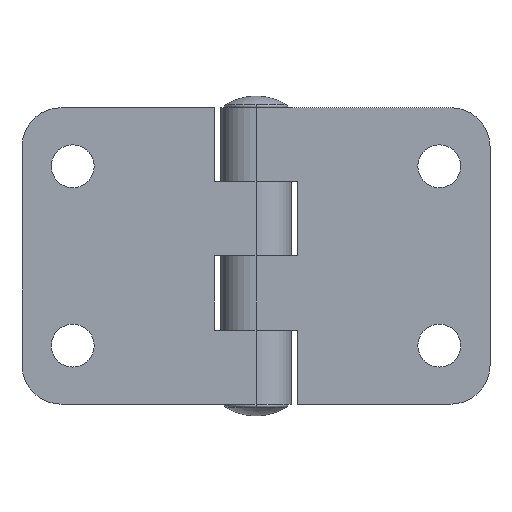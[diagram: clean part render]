
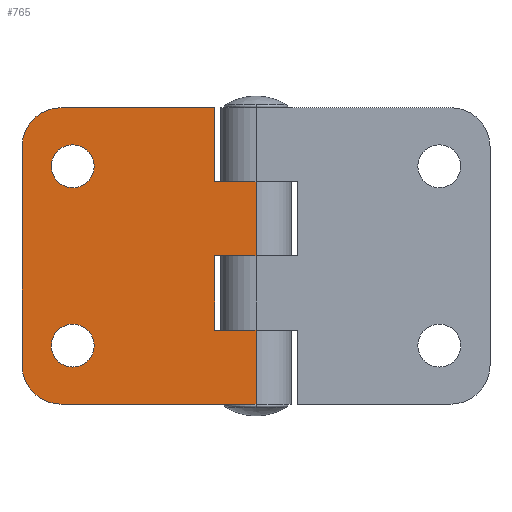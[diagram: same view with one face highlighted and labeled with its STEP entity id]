
A CAD part, top view. The second image highlights one B-rep face of the part: STEP entity #765.
In plain terms, the highlighted planar face has unit normal (0, 0, 1) as drawn and (0, -1, 0) by its records, which use the part's own axes.
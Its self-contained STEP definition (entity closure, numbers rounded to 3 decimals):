
#4 = CARTESIAN_POINT ( 'NONE',  ( 0., -4.5, 38. ) ) ;
#13 = LINE ( 'NONE', #195, #682 ) ;
#32 = AXIS2_PLACEMENT_3D ( 'NONE', #766, #454, #488 ) ;
#35 = EDGE_LOOP ( 'NONE', ( #798, #1360, #1066, #411, #68, #1325, #371, #38, #1292, #1006, #673, #1255 ) ) ;
#38 = ORIENTED_EDGE ( 'NONE', *, *, #256, .F. ) ;
#58 = CARTESIAN_POINT ( 'NONE',  ( 0., -4.5, 0. ) ) ;
#68 = ORIENTED_EDGE ( 'NONE', *, *, #690, .F. ) ;
#91 = VERTEX_POINT ( 'NONE', #587 ) ;
#113 = LINE ( 'NONE', #4, #498 ) ;
#115 = CARTESIAN_POINT ( 'NONE',  ( -25., -4.5, 33. ) ) ;
#117 = EDGE_CURVE ( 'NONE', #797, #202, #952, .T. ) ;
#124 = LINE ( 'NONE', #539, #1120 ) ;
#140 = VERTEX_POINT ( 'NONE', #662 ) ;
#142 = CIRCLE ( 'NONE', #660, 2.75 ) ;
#144 = CIRCLE ( 'NONE', #990, 2.75 ) ;
#194 = CIRCLE ( 'NONE', #998, 2.75 ) ;
#195 = CARTESIAN_POINT ( 'NONE',  ( -5.3, -4.5, 38. ) ) ;
#202 = VERTEX_POINT ( 'NONE', #790 ) ;
#209 = DIRECTION ( 'NONE',  ( 0., 0., -1. ) ) ;
#221 = VERTEX_POINT ( 'NONE', #792 ) ;
#227 = VERTEX_POINT ( 'NONE', #902 ) ;
#256 = EDGE_CURVE ( 'NONE', #221, #1083, #113, .T. ) ;
#261 = VECTOR ( 'NONE', #318, 1000. ) ;
#285 = CARTESIAN_POINT ( 'NONE',  ( -25., -4.5, 0. ) ) ;
#301 = LINE ( 'NONE', #886, #985 ) ;
#312 = VERTEX_POINT ( 'NONE', #1329 ) ;
#315 = CARTESIAN_POINT ( 'NONE',  ( -23.5, -4.5, 30.5 ) ) ;
#318 = DIRECTION ( 'NONE',  ( 1., 0., 0. ) ) ;
#341 = EDGE_CURVE ( 'NONE', #202, #1015, #1035, .T. ) ;
#343 = CARTESIAN_POINT ( 'NONE',  ( -30., -4.5, 5. ) ) ;
#349 = DIRECTION ( 'NONE',  ( 0., -1., 0. ) ) ;
#371 = ORIENTED_EDGE ( 'NONE', *, *, #525, .F. ) ;
#372 = LINE ( 'NONE', #1434, #1293 ) ;
#374 = EDGE_CURVE ( 'NONE', #91, #387, #372, .T. ) ;
#387 = VERTEX_POINT ( 'NONE', #489 ) ;
#398 = AXIS2_PLACEMENT_3D ( 'NONE', #1012, #855, #1079 ) ;
#411 = ORIENTED_EDGE ( 'NONE', *, *, #1525, .F. ) ;
#415 = AXIS2_PLACEMENT_3D ( 'NONE', #1134, #1139, #1061 ) ;
#420 = DIRECTION ( 'NONE',  ( 1., 0., 0. ) ) ;
#429 = VERTEX_POINT ( 'NONE', #343 ) ;
#438 = LINE ( 'NONE', #1224, #1352 ) ;
#439 = VECTOR ( 'NONE', #883, 1000. ) ;
#454 = DIRECTION ( 'NONE',  ( 0., -1., 0. ) ) ;
#463 = EDGE_CURVE ( 'NONE', #572, #1233, #194, .T. ) ;
#476 = CARTESIAN_POINT ( 'NONE',  ( -30., -4.5, 33. ) ) ;
#485 = FACE_BOUND ( 'NONE', #567, .T. ) ;
#488 = DIRECTION ( 'NONE',  ( 1., 0., 0. ) ) ;
#489 = CARTESIAN_POINT ( 'NONE',  ( -5.3, -4.5, 9.5 ) ) ;
#498 = VECTOR ( 'NONE', #771, 1000. ) ;
#525 = EDGE_CURVE ( 'NONE', #1083, #91, #124, .T. ) ;
#532 = FACE_OUTER_BOUND ( 'NONE', #35, .T. ) ;
#539 = CARTESIAN_POINT ( 'NONE',  ( -5.3, -4.5, 19. ) ) ;
#559 = ORIENTED_EDGE ( 'NONE', *, *, #463, .F. ) ;
#567 = EDGE_LOOP ( 'NONE', ( #634, #912 ) ) ;
#572 = VERTEX_POINT ( 'NONE', #1242 ) ;
#581 = CARTESIAN_POINT ( 'NONE',  ( 0., -4.5, 38. ) ) ;
#587 = CARTESIAN_POINT ( 'NONE',  ( -5.3, -4.5, 19. ) ) ;
#622 = CARTESIAN_POINT ( 'NONE',  ( 0., -4.5, 19. ) ) ;
#629 = DIRECTION ( 'NONE',  ( -1., 0., 0. ) ) ;
#633 = EDGE_CURVE ( 'NONE', #797, #312, #13, .T. ) ;
#634 = ORIENTED_EDGE ( 'NONE', *, *, #1240, .F. ) ;
#658 = VECTOR ( 'NONE', #629, 1000. ) ;
#660 = AXIS2_PLACEMENT_3D ( 'NONE', #315, #349, #420 ) ;
#662 = CARTESIAN_POINT ( 'NONE',  ( 0., -4.5, 9.5 ) ) ;
#672 = CIRCLE ( 'NONE', #415, 2.75 ) ;
#673 = ORIENTED_EDGE ( 'NONE', *, *, #117, .T. ) ;
#682 = VECTOR ( 'NONE', #209, 1000. ) ;
#690 = EDGE_CURVE ( 'NONE', #387, #140, #1231, .T. ) ;
#700 = VERTEX_POINT ( 'NONE', #285 ) ;
#724 = DIRECTION ( 'NONE',  ( 1., 0., 0. ) ) ;
#739 = CARTESIAN_POINT ( 'NONE',  ( -26.25, -4.5, 7.5 ) ) ;
#749 = VECTOR ( 'NONE', #1282, 1000. ) ;
#751 = DIRECTION ( 'NONE',  ( 0., 0., -1. ) ) ;
#765 = ADVANCED_FACE ( 'NONE', ( #532, #485, #1425 ), #1072, .T. ) ;
#766 = CARTESIAN_POINT ( 'NONE',  ( -25., -4.5, 5. ) ) ;
#771 = DIRECTION ( 'NONE',  ( 0., 0., -1. ) ) ;
#786 = EDGE_CURVE ( 'NONE', #1163, #700, #438, .T. ) ;
#788 = EDGE_CURVE ( 'NONE', #1015, #429, #1056, .T. ) ;
#790 = CARTESIAN_POINT ( 'NONE',  ( -25., -4.5, 38. ) ) ;
#792 = CARTESIAN_POINT ( 'NONE',  ( 0., -4.5, 28.5 ) ) ;
#795 = LINE ( 'NONE', #1426, #439 ) ;
#797 = VERTEX_POINT ( 'NONE', #1105 ) ;
#798 = ORIENTED_EDGE ( 'NONE', *, *, #788, .T. ) ;
#824 = EDGE_CURVE ( 'NONE', #1233, #572, #142, .T. ) ;
#851 = CARTESIAN_POINT ( 'NONE',  ( -23.5, -4.5, 30.5 ) ) ;
#855 = DIRECTION ( 'NONE',  ( 0., -1., 0. ) ) ;
#871 = VERTEX_POINT ( 'NONE', #739 ) ;
#877 = EDGE_LOOP ( 'NONE', ( #559, #1460 ) ) ;
#879 = DIRECTION ( 'NONE',  ( 0., 0., -1. ) ) ;
#883 = DIRECTION ( 'NONE',  ( 1., 0., 0. ) ) ;
#886 = CARTESIAN_POINT ( 'NONE',  ( 0., -4.5, 38. ) ) ;
#887 = DIRECTION ( 'NONE',  ( 0., -1., 0. ) ) ;
#902 = CARTESIAN_POINT ( 'NONE',  ( -20.75, -4.5, 7.5 ) ) ;
#912 = ORIENTED_EDGE ( 'NONE', *, *, #926, .F. ) ;
#926 = EDGE_CURVE ( 'NONE', #871, #227, #144, .T. ) ;
#941 = EDGE_CURVE ( 'NONE', #312, #221, #795, .T. ) ;
#952 = LINE ( 'NONE', #581, #658 ) ;
#967 = EDGE_CURVE ( 'NONE', #429, #700, #1355, .T. ) ;
#985 = VECTOR ( 'NONE', #879, 1000. ) ;
#990 = AXIS2_PLACEMENT_3D ( 'NONE', #1114, #1214, #1064 ) ;
#998 = AXIS2_PLACEMENT_3D ( 'NONE', #851, #1510, #724 ) ;
#1006 = ORIENTED_EDGE ( 'NONE', *, *, #633, .F. ) ;
#1012 = CARTESIAN_POINT ( 'NONE',  ( 0., -4.5, 38. ) ) ;
#1015 = VERTEX_POINT ( 'NONE', #476 ) ;
#1035 = CIRCLE ( 'NONE', #1529, 5. ) ;
#1056 = LINE ( 'NONE', #1331, #749 ) ;
#1061 = DIRECTION ( 'NONE',  ( 1., 0., 0. ) ) ;
#1064 = DIRECTION ( 'NONE',  ( 1., 0., 0. ) ) ;
#1066 = ORIENTED_EDGE ( 'NONE', *, *, #786, .F. ) ;
#1072 = PLANE ( 'NONE',  #398 ) ;
#1079 = DIRECTION ( 'NONE',  ( 1., 0., 0. ) ) ;
#1083 = VERTEX_POINT ( 'NONE', #622 ) ;
#1105 = CARTESIAN_POINT ( 'NONE',  ( -5.3, -4.5, 38. ) ) ;
#1114 = CARTESIAN_POINT ( 'NONE',  ( -23.5, -4.5, 7.5 ) ) ;
#1120 = VECTOR ( 'NONE', #1474, 1000. ) ;
#1134 = CARTESIAN_POINT ( 'NONE',  ( -23.5, -4.5, 7.5 ) ) ;
#1139 = DIRECTION ( 'NONE',  ( 0., -1., 0. ) ) ;
#1163 = VERTEX_POINT ( 'NONE', #58 ) ;
#1214 = DIRECTION ( 'NONE',  ( 0., -1., 0. ) ) ;
#1224 = CARTESIAN_POINT ( 'NONE',  ( 0., -4.5, 0. ) ) ;
#1231 = LINE ( 'NONE', #1508, #261 ) ;
#1233 = VERTEX_POINT ( 'NONE', #1346 ) ;
#1240 = EDGE_CURVE ( 'NONE', #227, #871, #672, .T. ) ;
#1242 = CARTESIAN_POINT ( 'NONE',  ( -20.75, -4.5, 30.5 ) ) ;
#1255 = ORIENTED_EDGE ( 'NONE', *, *, #341, .T. ) ;
#1282 = DIRECTION ( 'NONE',  ( 0., 0., -1. ) ) ;
#1292 = ORIENTED_EDGE ( 'NONE', *, *, #941, .F. ) ;
#1293 = VECTOR ( 'NONE', #751, 1000. ) ;
#1325 = ORIENTED_EDGE ( 'NONE', *, *, #374, .F. ) ;
#1329 = CARTESIAN_POINT ( 'NONE',  ( -5.3, -4.5, 28.5 ) ) ;
#1331 = CARTESIAN_POINT ( 'NONE',  ( -30., -4.5, 38. ) ) ;
#1346 = CARTESIAN_POINT ( 'NONE',  ( -26.25, -4.5, 30.5 ) ) ;
#1352 = VECTOR ( 'NONE', #1418, 1000. ) ;
#1355 = CIRCLE ( 'NONE', #32, 5. ) ;
#1360 = ORIENTED_EDGE ( 'NONE', *, *, #967, .T. ) ;
#1418 = DIRECTION ( 'NONE',  ( -1., 0., 0. ) ) ;
#1425 = FACE_BOUND ( 'NONE', #877, .T. ) ;
#1426 = CARTESIAN_POINT ( 'NONE',  ( -5.3, -4.5, 28.5 ) ) ;
#1434 = CARTESIAN_POINT ( 'NONE',  ( -5.3, -4.5, 19. ) ) ;
#1460 = ORIENTED_EDGE ( 'NONE', *, *, #824, .F. ) ;
#1474 = DIRECTION ( 'NONE',  ( -1., 0., 0. ) ) ;
#1508 = CARTESIAN_POINT ( 'NONE',  ( -5.3, -4.5, 9.5 ) ) ;
#1510 = DIRECTION ( 'NONE',  ( 0., -1., 0. ) ) ;
#1525 = EDGE_CURVE ( 'NONE', #140, #1163, #301, .T. ) ;
#1529 = AXIS2_PLACEMENT_3D ( 'NONE', #115, #887, #1537 ) ;
#1537 = DIRECTION ( 'NONE',  ( 1., 0., 0. ) ) ;
